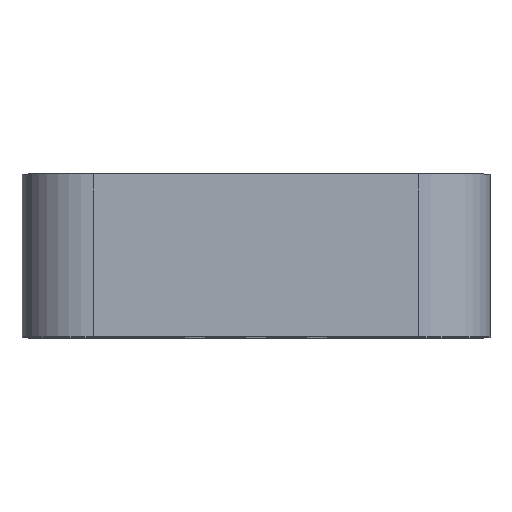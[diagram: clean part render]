
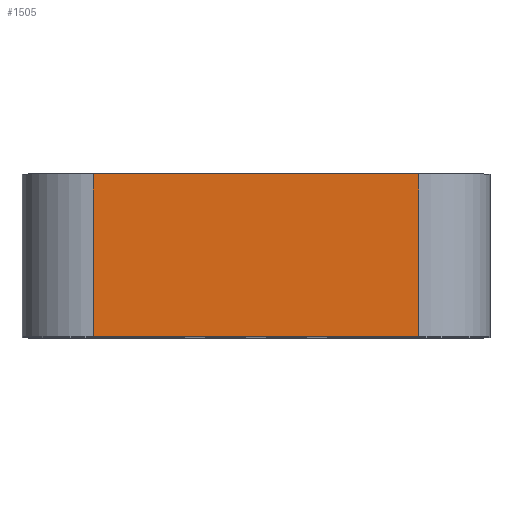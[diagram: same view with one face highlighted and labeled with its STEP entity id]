
A CAD part, top view. The second image highlights one B-rep face of the part: STEP entity #1505.
In plain terms, the highlighted planar face has unit normal (0, 0, 1).
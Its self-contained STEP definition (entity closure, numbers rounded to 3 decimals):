
#182=FACE_OUTER_BOUND('',#304,.T.);
#304=EDGE_LOOP('',(#1308,#1309,#1310,#1311));
#406=LINE('',#2430,#517);
#428=LINE('',#2585,#539);
#429=LINE('',#2588,#540);
#430=LINE('',#2589,#541);
#517=VECTOR('',#1965,10.);
#539=VECTOR('',#2155,10.);
#540=VECTOR('',#2158,10.);
#541=VECTOR('',#2159,10.);
#712=VERTEX_POINT('',#2427);
#713=VERTEX_POINT('',#2429);
#762=VERTEX_POINT('',#2583);
#763=VERTEX_POINT('',#2587);
#885=EDGE_CURVE('',#712,#713,#406,.T.);
#957=EDGE_CURVE('',#712,#762,#428,.T.);
#958=EDGE_CURVE('',#763,#762,#429,.T.);
#959=EDGE_CURVE('',#713,#763,#430,.T.);
#1308=ORIENTED_EDGE('',*,*,#885,.F.);
#1309=ORIENTED_EDGE('',*,*,#957,.T.);
#1310=ORIENTED_EDGE('',*,*,#958,.F.);
#1311=ORIENTED_EDGE('',*,*,#959,.F.);
#1417=PLANE('',#1697);
#1505=ADVANCED_FACE('',(#182),#1417,.T.);
#1697=AXIS2_PLACEMENT_3D('',#2586,#2156,#2157);
#1965=DIRECTION('',(-1.,0.,0.));
#2155=DIRECTION('',(0.,1.,0.));
#2156=DIRECTION('center_axis',(0.,0.,1.));
#2157=DIRECTION('ref_axis',(1.,0.,0.));
#2158=DIRECTION('',(1.,0.,0.));
#2159=DIRECTION('',(0.,1.,0.));
#2427=CARTESIAN_POINT('',(8.,0.,19.25));
#2429=CARTESIAN_POINT('',(-8.,0.,19.25));
#2430=CARTESIAN_POINT('',(8.,0.,19.25));
#2583=CARTESIAN_POINT('',(8.,8.,19.25));
#2585=CARTESIAN_POINT('',(8.,0.,19.25));
#2586=CARTESIAN_POINT('Origin',(-8.,0.,19.25));
#2587=CARTESIAN_POINT('',(-8.,8.,19.25));
#2588=CARTESIAN_POINT('',(8.,8.,19.25));
#2589=CARTESIAN_POINT('',(-8.,0.,19.25));
